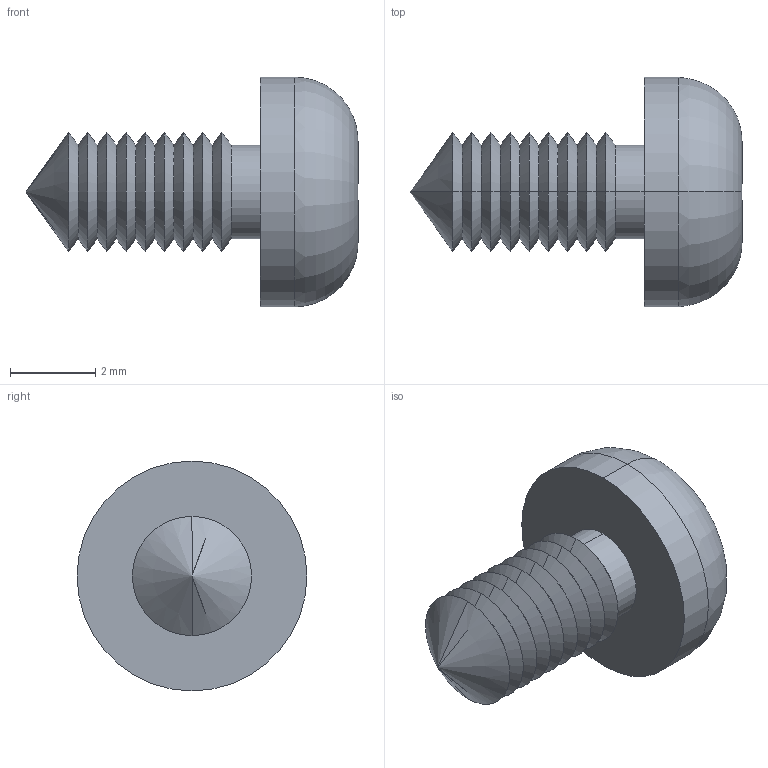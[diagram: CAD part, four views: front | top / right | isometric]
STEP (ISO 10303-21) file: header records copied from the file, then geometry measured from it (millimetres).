
FILE_DESCRIPTION (( 'STEP AP214' ), '1' );
FILE_NAME ('Cargol 2,1x6,5 PP120.STEP', '2019-11-08T19:16:08', ( 'aaa' ), ( '' ), 'SwSTEP 2.0', 'SolidWorks 2014', '' );
FILE_SCHEMA (( 'AUTOMOTIVE_DESIGN' ));
Length unit declared in the file: millimetre
Products named in the file (1): Cargol 2,1x6,5 PP120
Bounding box: 7.8 x 5.4 x 5.4 mm (x, y, z)
Volume: 68.5 mm3; surface area: 133.9 mm2
Topology: 1 solids, 1 shells, 60 faces, 136 edges, 77 vertices
Faces by surface type: cone 36, plane 18, cylinder 4, torus 2
Entity records: 1678 total; most frequent: CARTESIAN_POINT 314, DIRECTION 290, ORIENTED_EDGE 268, EDGE_CURVE 134, AXIS2_PLACEMENT_3D 109, VERTEX_POINT 77, LINE 72, VECTOR 72
